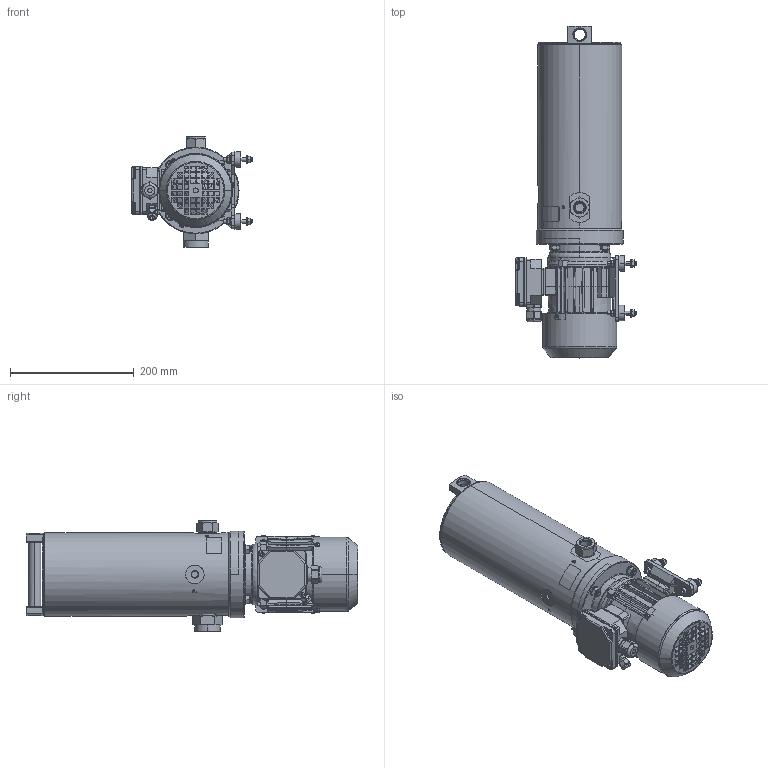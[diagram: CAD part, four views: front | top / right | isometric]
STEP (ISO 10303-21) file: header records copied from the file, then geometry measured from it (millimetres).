
FILE_DESCRIPTION((''),'2;1');
FILE_NAME('FNA_016-1763_GEFUELLT','2017-10-26T',('f.kollmann'),(''),'PRO/ENGINEER BY PARAMETRIC TECHNOLOGY CORPORATION, 2015110','PRO/ENGINEER BY PARAMETRIC TECHNOLOGY CORPORATION, 2015110','');
FILE_SCHEMA(('AUTOMOTIVE_DESIGN { 1 0 10303 214 1 1 1 1 }'));
Products named in the file (1): FNA_016-1763_GEFUELLT
Bounding box: 194.03 x 535.7 x 178 mm (x, y, z)
Volume: 5950073.8 mm3; surface area: 497573.3 mm2
Topology: 2 solids, 35 shells, 2629 faces, 7915 edges, 5415 vertices
Faces by surface type: plane 1224, cylinder 817, cone 366, torus 127, bspline 73, extrusion 17, sphere 5
Entity records: 141126 total; most frequent: CARTESIAN_POINT 31394, ORIENTED_EDGE 15708, DIRECTION 14605, PRESENTATION_STYLE_ASSIGNMENT 9900, STYLED_ITEM 7895, CURVE_STYLE 7884, EDGE_CURVE 7878, AXIS2_PLACEMENT_3D 5547
